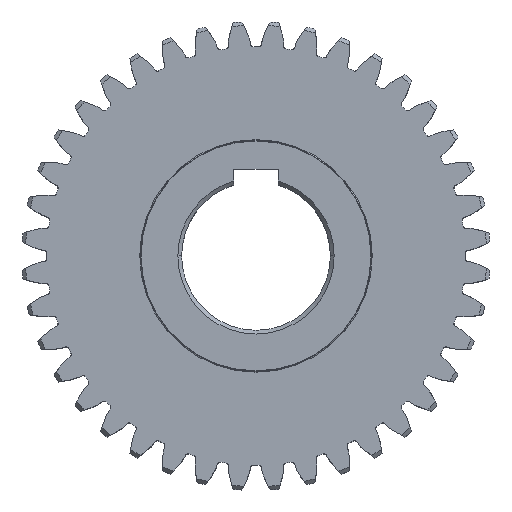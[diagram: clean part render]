
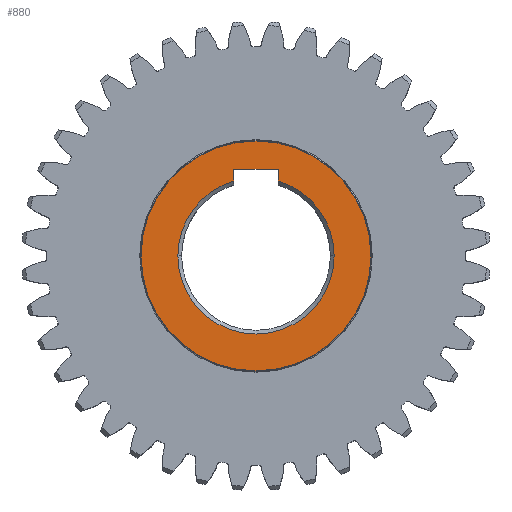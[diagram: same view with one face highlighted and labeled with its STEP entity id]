
A CAD part, top view. The second image highlights one B-rep face of the part: STEP entity #880.
In plain terms, the highlighted planar face has unit normal (0, 0, 1).
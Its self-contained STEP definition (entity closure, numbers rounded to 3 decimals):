
#819 = CARTESIAN_POINT ( 'NONE',  ( 0., 0., 15. ) ) ;
#880 = ADVANCED_FACE ( 'NONE', ( #5416, #12496 ), #10992, .T. ) ;
#1108 = CARTESIAN_POINT ( 'NONE',  ( -6., 16.7, 15. ) ) ;
#1241 = CARTESIAN_POINT ( 'NONE',  ( -6., 23.3, 15. ) ) ;
#2724 = AXIS2_PLACEMENT_3D ( 'NONE', #9554, #12548, #19670 ) ;
#2796 = DIRECTION ( 'NONE',  ( 0., 0., 1. ) ) ;
#2876 = EDGE_CURVE ( 'NONE', #16587, #22488, #5797, .T. ) ;
#2979 = EDGE_LOOP ( 'NONE', ( #20225, #14604, #7575, #17661, #4665, #20555 ) ) ;
#3034 = EDGE_CURVE ( 'NONE', #10223, #20067, #10069, .T. ) ;
#3439 = DIRECTION ( 'NONE',  ( 1., 0., 0. ) ) ;
#3852 = CIRCLE ( 'NONE', #20216, 30.9 ) ;
#4623 = ORIENTED_EDGE ( 'NONE', *, *, #19661, .T. ) ;
#4665 = ORIENTED_EDGE ( 'NONE', *, *, #3034, .T. ) ;
#4758 = VERTEX_POINT ( 'NONE', #16898 ) ;
#4989 = VECTOR ( 'NONE', #19384, 1000. ) ;
#5356 = CARTESIAN_POINT ( 'NONE',  ( -21., 0., 15. ) ) ;
#5416 = FACE_OUTER_BOUND ( 'NONE', #9801, .T. ) ;
#5659 = AXIS2_PLACEMENT_3D ( 'NONE', #10632, #21464, #17738 ) ;
#5797 = CIRCLE ( 'NONE', #8402, 21. ) ;
#5989 = CARTESIAN_POINT ( 'NONE',  ( 6., 23.3, 15. ) ) ;
#6265 = DIRECTION ( 'NONE',  ( 1., 0., 0. ) ) ;
#6809 = CIRCLE ( 'NONE', #2724, 21. ) ;
#7283 = CARTESIAN_POINT ( 'NONE',  ( 21., 0., 15. ) ) ;
#7331 = CIRCLE ( 'NONE', #9192, 30.9 ) ;
#7345 = CARTESIAN_POINT ( 'NONE',  ( 6., 16.7, 15. ) ) ;
#7575 = ORIENTED_EDGE ( 'NONE', *, *, #2876, .T. ) ;
#8039 = VECTOR ( 'NONE', #16835, 1000. ) ;
#8294 = AXIS2_PLACEMENT_3D ( 'NONE', #21133, #19389, #3439 ) ;
#8402 = AXIS2_PLACEMENT_3D ( 'NONE', #18942, #11496, #22438 ) ;
#8688 = LINE ( 'NONE', #14245, #4989 ) ;
#8911 = CARTESIAN_POINT ( 'NONE',  ( -6., 20.125, 15. ) ) ;
#9192 = AXIS2_PLACEMENT_3D ( 'NONE', #819, #2796, #22340 ) ;
#9251 = VERTEX_POINT ( 'NONE', #19948 ) ;
#9554 = CARTESIAN_POINT ( 'NONE',  ( 0., 0., 15. ) ) ;
#9801 = EDGE_LOOP ( 'NONE', ( #15894, #4623 ) ) ;
#9907 = EDGE_CURVE ( 'NONE', #12922, #9251, #14305, .T. ) ;
#10022 = EDGE_CURVE ( 'NONE', #9251, #16587, #6809, .T. ) ;
#10069 = LINE ( 'NONE', #1108, #8039 ) ;
#10223 = VERTEX_POINT ( 'NONE', #8911 ) ;
#10632 = CARTESIAN_POINT ( 'NONE',  ( 0., 0., 15. ) ) ;
#10816 = EDGE_CURVE ( 'NONE', #4758, #22211, #7331, .T. ) ;
#10992 = PLANE ( 'NONE',  #8294 ) ;
#11496 = DIRECTION ( 'NONE',  ( 0., 0., -1. ) ) ;
#12496 = FACE_BOUND ( 'NONE', #2979, .T. ) ;
#12548 = DIRECTION ( 'NONE',  ( 0., 0., -1. ) ) ;
#12922 = VERTEX_POINT ( 'NONE', #5989 ) ;
#13247 = CARTESIAN_POINT ( 'NONE',  ( 0., 0., 15. ) ) ;
#14245 = CARTESIAN_POINT ( 'NONE',  ( 6., 23.3, 15. ) ) ;
#14305 = LINE ( 'NONE', #7345, #17226 ) ;
#14604 = ORIENTED_EDGE ( 'NONE', *, *, #10022, .T. ) ;
#15894 = ORIENTED_EDGE ( 'NONE', *, *, #10816, .T. ) ;
#16587 = VERTEX_POINT ( 'NONE', #7283 ) ;
#16835 = DIRECTION ( 'NONE',  ( 0., 1., 0. ) ) ;
#16898 = CARTESIAN_POINT ( 'NONE',  ( -30.9, 0., 15. ) ) ;
#17226 = VECTOR ( 'NONE', #18153, 1000. ) ;
#17661 = ORIENTED_EDGE ( 'NONE', *, *, #22681, .T. ) ;
#17738 = DIRECTION ( 'NONE',  ( 1., 0., 0. ) ) ;
#18153 = DIRECTION ( 'NONE',  ( 0., -1., 0. ) ) ;
#18942 = CARTESIAN_POINT ( 'NONE',  ( 0., 0., 15. ) ) ;
#19040 = CIRCLE ( 'NONE', #5659, 21. ) ;
#19384 = DIRECTION ( 'NONE',  ( 1., 0., 0. ) ) ;
#19389 = DIRECTION ( 'NONE',  ( 0., 0., 1. ) ) ;
#19661 = EDGE_CURVE ( 'NONE', #22211, #4758, #3852, .T. ) ;
#19670 = DIRECTION ( 'NONE',  ( 1., 0., 0. ) ) ;
#19948 = CARTESIAN_POINT ( 'NONE',  ( 6., 20.125, 15. ) ) ;
#20067 = VERTEX_POINT ( 'NONE', #1241 ) ;
#20159 = CARTESIAN_POINT ( 'NONE',  ( 30.9, 0., 15. ) ) ;
#20199 = EDGE_CURVE ( 'NONE', #20067, #12922, #8688, .T. ) ;
#20216 = AXIS2_PLACEMENT_3D ( 'NONE', #13247, #22218, #6265 ) ;
#20225 = ORIENTED_EDGE ( 'NONE', *, *, #9907, .T. ) ;
#20555 = ORIENTED_EDGE ( 'NONE', *, *, #20199, .T. ) ;
#21133 = CARTESIAN_POINT ( 'NONE',  ( 0., 0., 15. ) ) ;
#21464 = DIRECTION ( 'NONE',  ( 0., 0., -1. ) ) ;
#22211 = VERTEX_POINT ( 'NONE', #20159 ) ;
#22218 = DIRECTION ( 'NONE',  ( 0., 0., 1. ) ) ;
#22340 = DIRECTION ( 'NONE',  ( 1., 0., 0. ) ) ;
#22438 = DIRECTION ( 'NONE',  ( 1., 0., 0. ) ) ;
#22488 = VERTEX_POINT ( 'NONE', #5356 ) ;
#22681 = EDGE_CURVE ( 'NONE', #22488, #10223, #19040, .T. ) ;
